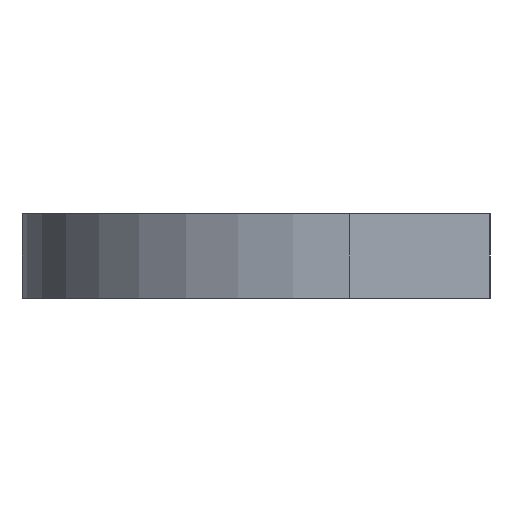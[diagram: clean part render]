
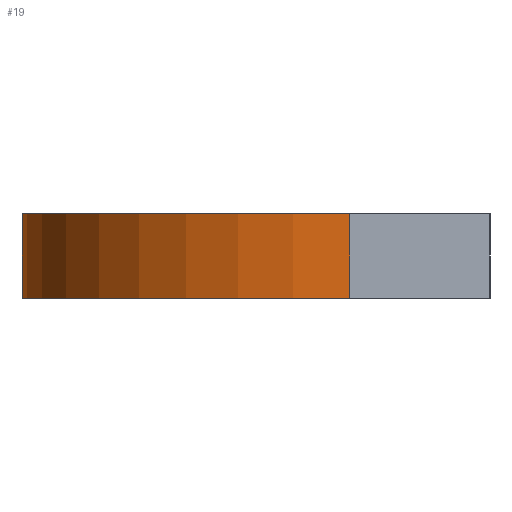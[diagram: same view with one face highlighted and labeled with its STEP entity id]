
A CAD part, left-side view. The second image highlights one B-rep face of the part: STEP entity #19.
In plain terms, the highlighted cylindrical face has radius 70 mm (diameter 140 mm), a partial arc.
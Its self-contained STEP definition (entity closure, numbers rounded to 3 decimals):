
#9 = VECTOR ( 'NONE', #457, 1000. ) ;
#19 = ADVANCED_FACE ( 'NONE', ( #35 ), #634, .T. ) ;
#35 = FACE_OUTER_BOUND ( 'NONE', #387, .T. ) ;
#42 = ORIENTED_EDGE ( 'NONE', *, *, #471, .T. ) ;
#47 = VERTEX_POINT ( 'NONE', #320 ) ;
#94 = DIRECTION ( 'NONE',  ( -1., 0., 0. ) ) ;
#129 = AXIS2_PLACEMENT_3D ( 'NONE', #482, #205, #94 ) ;
#141 = CARTESIAN_POINT ( 'NONE',  ( -847.5, 15., 18. ) ) ;
#159 = VERTEX_POINT ( 'NONE', #490 ) ;
#186 = EDGE_CURVE ( 'NONE', #401, #47, #220, .T. ) ;
#195 = DIRECTION ( 'NONE',  ( -1., 0., 0. ) ) ;
#205 = DIRECTION ( 'NONE',  ( 0., 0., 1. ) ) ;
#220 = LINE ( 'NONE', #439, #650 ) ;
#253 = CIRCLE ( 'NONE', #311, 70. ) ;
#257 = EDGE_CURVE ( 'NONE', #159, #516, #675, .T. ) ;
#311 = AXIS2_PLACEMENT_3D ( 'NONE', #313, #534, #641 ) ;
#313 = CARTESIAN_POINT ( 'NONE',  ( -847.5, 15., 18. ) ) ;
#320 = CARTESIAN_POINT ( 'NONE',  ( -847.5, 85., 0. ) ) ;
#326 = CARTESIAN_POINT ( 'NONE',  ( -847.5, 85., 18. ) ) ;
#332 = DIRECTION ( 'NONE',  ( 0., 0., -1. ) ) ;
#358 = CARTESIAN_POINT ( 'NONE',  ( -917.5, 15., 18. ) ) ;
#359 = DIRECTION ( 'NONE',  ( 0., 0., -1. ) ) ;
#387 = EDGE_LOOP ( 'NONE', ( #42, #396, #524, #541 ) ) ;
#396 = ORIENTED_EDGE ( 'NONE', *, *, #257, .F. ) ;
#401 = VERTEX_POINT ( 'NONE', #326 ) ;
#411 = CIRCLE ( 'NONE', #129, 70. ) ;
#439 = CARTESIAN_POINT ( 'NONE',  ( -847.5, 85., 18. ) ) ;
#451 = CARTESIAN_POINT ( 'NONE',  ( -917.5, 15., 0. ) ) ;
#457 = DIRECTION ( 'NONE',  ( 0., 0., -1. ) ) ;
#471 = EDGE_CURVE ( 'NONE', #47, #516, #411, .T. ) ;
#482 = CARTESIAN_POINT ( 'NONE',  ( -847.5, 15., 0. ) ) ;
#490 = CARTESIAN_POINT ( 'NONE',  ( -917.5, 15., 18. ) ) ;
#516 = VERTEX_POINT ( 'NONE', #451 ) ;
#524 = ORIENTED_EDGE ( 'NONE', *, *, #687, .F. ) ;
#534 = DIRECTION ( 'NONE',  ( 0., 0., 1. ) ) ;
#541 = ORIENTED_EDGE ( 'NONE', *, *, #186, .T. ) ;
#634 = CYLINDRICAL_SURFACE ( 'NONE', #670, 70. ) ;
#641 = DIRECTION ( 'NONE',  ( -1., 0., 0. ) ) ;
#650 = VECTOR ( 'NONE', #332, 1000. ) ;
#670 = AXIS2_PLACEMENT_3D ( 'NONE', #141, #359, #195 ) ;
#675 = LINE ( 'NONE', #358, #9 ) ;
#687 = EDGE_CURVE ( 'NONE', #401, #159, #253, .T. ) ;
